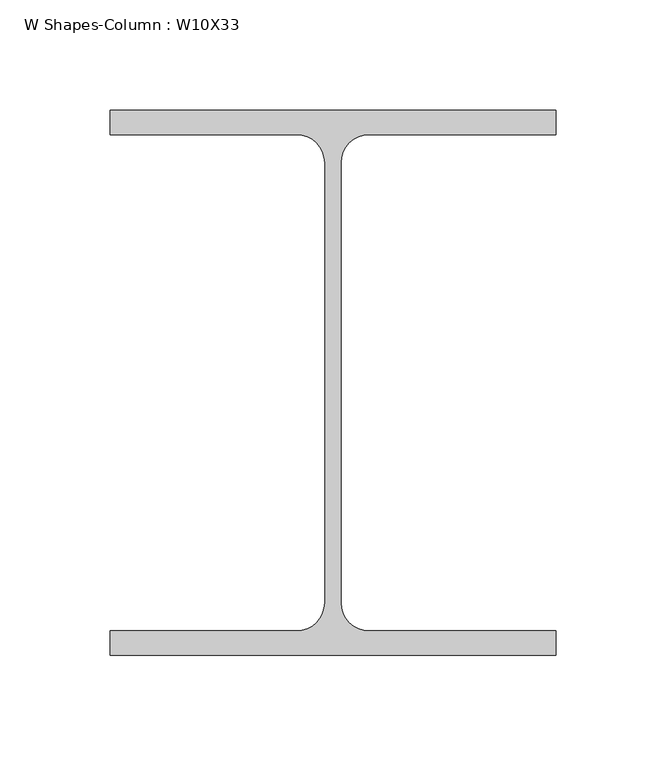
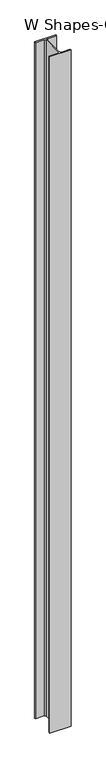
"""IFC4 building model written with IfcOpenShell, lengths in millimetres: column geometry, W Shapes-Column : W10X33."""

import ifcopenshell
import ifcopenshell.guid

model = None  # the IFC model being written
_history = None  # IfcOwnerHistory: only IFC2X3 demands one
_inside = {}  # id of a spatial element -> (the spatial element, [elements in it])
_under = {}  # id of a project, library or spatial element -> (it, [spatial elements below it])
_declared = {}  # id of a project -> (the project, [libraries it declares])
_typed = {}  # id of a type object -> (the type object, [elements of that type])
_made_of = {}  # id of a material, layer set ... -> (it, [elements and type objects made of it])


def new_model(schema):
    """Start an empty IFC model of exactly this schema.

    Asked for "IFC4X3", IfcOpenShell would pick the latest addendum, in which some entities
    have other attributes; the version numbers below select the first issue.
    IFC2X3 requires an IfcOwnerHistory on every rooted entity: one is made here for all.
    """
    global model, _history
    if schema == "IFC4X3":
        model = ifcopenshell.file(schema_version=(4, 3, 0, 0))
    else:
        model = ifcopenshell.file(schema=schema)
    _inside.clear()
    _under.clear()
    _declared.clear()
    _typed.clear()
    _made_of.clear()
    _history = None
    if model.schema == "IFC2X3":
        org = make("IfcOrganization", Name="unknown")
        user = make(
            "IfcPersonAndOrganization",
            ThePerson=make("IfcPerson", FamilyName="unknown"),
            TheOrganization=org,
        )
        app = make(
            "IfcApplication",
            ApplicationDeveloper=org,
            Version="unknown",
            ApplicationFullName="unknown",
            ApplicationIdentifier="unknown",
        )
        _history = make(
            "IfcOwnerHistory",
            OwningUser=user,
            OwningApplication=app,
            ChangeAction="ADDED",
            CreationDate=0,
        )
    return model


def make(cls, **values):
    """One entity of the class cls with the attributes given. An attribute that is None is left unset."""
    return model.create_entity(
        cls, **{name: value for name, value in values.items() if value is not None}
    )


def rooted(cls, **values):
    """An entity with a GlobalId (a new one), such as an element, a storey or a relation."""
    return make(cls, GlobalId=ifcopenshell.guid.new(), OwnerHistory=_history, **values)


def si_unit(unit_type, name, prefix=None):
    """IfcSIUnit, for example si_unit("LENGTHUNIT", "METRE", prefix="MILLI")."""
    return make("IfcSIUnit", UnitType=unit_type, Prefix=prefix, Name=name)


def assignment(units):
    """IfcUnitAssignment: the units of a project."""
    return None if units is None else make("IfcUnitAssignment", Units=units)


def point(xyz):
    """IfcCartesianPoint."""
    return None if xyz is None else make("IfcCartesianPoint", Coordinates=xyz)


def direction(xyz):
    """IfcDirection."""
    return None if xyz is None else make("IfcDirection", DirectionRatios=xyz)


def frame(location, z_axis=None, x_axis=None):
    """IfcAxis2Placement3D, a coordinate frame: its origin and axes. An axis left out is left unset."""
    return make(
        "IfcAxis2Placement3D",
        Location=point(location),
        Axis=direction(z_axis),
        RefDirection=direction(x_axis),
    )


def frame_2d(location, x_axis=None):
    """IfcAxis2Placement2D, a coordinate frame in the plane: its origin and x axis."""
    return make(
        "IfcAxis2Placement2D", Location=point(location), RefDirection=direction(x_axis)
    )


def origin():
    """The frame at (0, 0, 0) with its axes left unset."""
    return frame((0.0, 0.0, 0.0))


def place(relative_to, where):
    """IfcLocalPlacement: puts the frame where relative to a parent placement (None: the world)."""
    return make(
        "IfcLocalPlacement", PlacementRelTo=relative_to, RelativePlacement=where
    )


def context(
    kind, dimensions, precision=None, world=None, true_north=None, identifier=None
):
    """IfcGeometricRepresentationContext, for example the 3D "Model" context."""
    return make(
        "IfcGeometricRepresentationContext",
        ContextIdentifier=identifier,
        ContextType=kind,
        CoordinateSpaceDimension=dimensions,
        Precision=precision,
        WorldCoordinateSystem=world,
        TrueNorth=true_north,
    )


def project(units=None, contexts=None):
    """IfcProject with its units and contexts."""
    return rooted(
        "IfcProject",
        Name="project",
        RepresentationContexts=contexts,
        UnitsInContext=assignment(units),
    )


def spatial(cls, under=None, at=None, **own):
    """A site, building, storey or space (cls), placed at a placement, below another one or the project."""
    s = rooted(cls, ObjectPlacement=at, **own)
    if under is not None:
        _under.setdefault(under.id(), (under, []))[1].append(s)
    return s


def polyline(points):
    """IfcPolyline through the points."""
    return make("IfcPolyline", Points=[point(p) for p in points])


def circle_curve(where, radius):
    """IfcCircle in the frame where."""
    return make("IfcCircle", Position=where, Radius=radius)


def trimmed(basis, trim1, trim2, sense, master):
    """IfcTrimmedCurve: the piece of a basis curve between two trims."""
    return make(
        "IfcTrimmedCurve",
        BasisCurve=basis,
        Trim1=trim1,
        Trim2=trim2,
        SenseAgreement=sense,
        MasterRepresentation=master,
    )


def segment(curve, same_sense, transition):
    """IfcCompositeCurveSegment."""
    return make(
        "IfcCompositeCurveSegment",
        Transition=transition,
        SameSense=same_sense,
        ParentCurve=curve,
    )


def composite_curve(segments, self_intersect=None):
    """IfcCompositeCurve: segments joined end to end."""
    return make("IfcCompositeCurve", Segments=segments, SelfIntersect=self_intersect)


def outline(outer, holes=None, kind="AREA"):
    """IfcArbitraryClosedProfileDef: a profile drawn as a closed curve; with holes, ...WithVoids."""
    if holes is None:
        return make("IfcArbitraryClosedProfileDef", ProfileType=kind, OuterCurve=outer)
    return make(
        "IfcArbitraryProfileDefWithVoids",
        ProfileType=kind,
        OuterCurve=outer,
        InnerCurves=holes,
    )


def extrude(swept, where, along, depth):
    """IfcExtrudedAreaSolid: the profile swept, set in the frame where, extruded along a direction by depth."""
    return make(
        "IfcExtrudedAreaSolid",
        SweptArea=swept,
        Position=where,
        ExtrudedDirection=direction(along),
        Depth=depth,
    )


def shape(context_of_items, identifier, shape_type, items):
    """IfcShapeRepresentation: the items that make up one representation, for example the "Body"."""
    return make(
        "IfcShapeRepresentation",
        ContextOfItems=context_of_items,
        RepresentationIdentifier=identifier,
        RepresentationType=shape_type,
        Items=items,
    )


def source(mapping_origin, context_of_items, identifier, shape_type, items):
    """IfcRepresentationMap: a shape defined once, which mapped items show again and again."""
    return make(
        "IfcRepresentationMap",
        MappingOrigin=mapping_origin,
        MappedRepresentation=shape(context_of_items, identifier, shape_type, items),
    )


def transform(
    local_origin,
    x_axis=None,
    y_axis=None,
    z_axis=None,
    scale=None,
    scale2=None,
    scale3=None,
    uniform=True,
):
    """IfcCartesianTransformationOperator3D, or its non-uniform kind. x_axis, y_axis, z_axis: its Axis1, 2, 3."""
    if uniform:
        return make(
            "IfcCartesianTransformationOperator3D",
            Axis1=direction(x_axis),
            Axis2=direction(y_axis),
            LocalOrigin=point(local_origin),
            Scale=scale,
            Axis3=direction(z_axis),
        )
    return make(
        "IfcCartesianTransformationOperator3DnonUniform",
        Axis1=direction(x_axis),
        Axis2=direction(y_axis),
        LocalOrigin=point(local_origin),
        Scale=scale,
        Axis3=direction(z_axis),
        Scale2=scale2,
        Scale3=scale3,
    )


def mapped(mapping_source, mapping_target):
    """IfcMappedItem: shows the shape of a source again, moved by a transform."""
    return make(
        "IfcMappedItem", MappingSource=mapping_source, MappingTarget=mapping_target
    )


def made_of(thing, what):
    """Note that an element or type object is made of a material, layer set ...; save() writes the relation."""
    if what is not None:
        _made_of.setdefault(what.id(), (what, []))[1].append(thing)
    return thing


def element(
    cls,
    number,
    at=None,
    inside=None,
    cuts=None,
    type_object=None,
    material=None,
    context=None,
    identifier="Body",
    shape_type=None,
    held_by="IfcProductDefinitionShape",
    body=None,
    shapes=None,
    **own,
):
    """One element of the class cls, such as IfcWall. Its Tag is "e" and its number.

    at: its placement. inside: the storey or other place that contains it. cuts: it is an
    opening in that element (IfcRelVoidsElement). A single representation is given by context,
    identifier, shape_type and body (its items); several are given by shapes. held_by: the class
    of the entity that holds the representations. save() writes the other relations.
    """
    e = rooted(cls, Tag="e%d" % number, ObjectPlacement=at, **own)
    if body is not None:
        shapes = [shape(context, identifier, shape_type, body)]
    if shapes is not None:
        e.Representation = make(held_by, Representations=shapes)
    if inside is not None:
        _inside.setdefault(inside.id(), (inside, []))[1].append(e)
    if cuts is not None:
        rooted(
            "IfcRelVoidsElement", RelatingBuildingElement=cuts, RelatedOpeningElement=e
        )
    if type_object is not None:
        _typed.setdefault(type_object.id(), (type_object, []))[1].append(e)
    return made_of(e, material)


def aggregate(whole, parts):
    """IfcRelAggregates: a whole, such as a stair, and the parts it consists of."""
    return rooted("IfcRelAggregates", RelatingObject=whole, RelatedObjects=parts)


def save(model, path):
    """Write the relations noted so far, then the file.

    IfcRelAggregates (storeys below a building ...), IfcRelContainedInSpatialStructure (elements
    in a storey), IfcRelDefinesByType, IfcRelAssociatesMaterial and IfcRelDeclares: one each for
    every whole, place, type object, material and project.
    """
    for whole, parts in _under.values():
        aggregate(whole, parts)
    for where, things in _inside.values():
        rooted(
            "IfcRelContainedInSpatialStructure",
            RelatedElements=things,
            RelatingStructure=where,
        )
    for kind, things in _typed.values():
        rooted("IfcRelDefinesByType", RelatedObjects=things, RelatingType=kind)
    for what, things in _made_of.values():
        rooted("IfcRelAssociatesMaterial", RelatedObjects=things, RelatingMaterial=what)
    for by, libraries in _declared.values():
        rooted("IfcRelDeclares", RelatingContext=by, RelatedDefinitions=libraries)
    model.write(path)


def w_shapes_column_w10x33_60aa4128(model_context):
    return source(origin(), model_context, "Body", "SweptSolid", [
        extrude(outline(composite_curve([segment(polyline([(101.092, 123.571), (101.092, 112.522), (16.383, 112.522)]), True, "CONTINUOUS"), segment(trimmed(circle_curve(frame_2d((16.383, 99.822)), 12.7), [point((16.383, 112.522))], [point((3.683, 99.822))], True, "CARTESIAN"), True, "CONTINUOUS"), segment(polyline([(3.683, 99.822), (3.683, -99.822)]), True, "CONTINUOUS"), segment(trimmed(circle_curve(frame_2d((16.383, -99.822)), 12.7), [point((3.683, -99.822))], [point((16.383, -112.522))], True, "CARTESIAN"), True, "CONTINUOUS"), segment(polyline([(16.383, -112.522), (101.092, -112.522), (101.092, -123.571), (-101.092, -123.571), (-101.092, -112.522), (-16.383, -112.522)]), True, "CONTINUOUS"), segment(trimmed(circle_curve(frame_2d((-16.383, -99.822)), 12.7), [point((-16.383, -112.522))], [point((-3.683, -99.822))], True, "CARTESIAN"), True, "CONTINUOUS"), segment(polyline([(-3.683, -99.822), (-3.683, 99.822)]), True, "CONTINUOUS"), segment(trimmed(circle_curve(frame_2d((-16.383, 99.822)), 12.7), [point((-3.683, 99.822))], [point((-16.383, 112.522))], True, "CARTESIAN"), True, "CONTINUOUS"), segment(polyline([(-16.383, 112.522), (-101.092, 112.522), (-101.092, 123.571), (101.092, 123.571)]), True, "CONTINUOUS")], self_intersect=False)), frame((0.0, 0.0, -304.8), z_axis=(0.0, 0.0, 1.0), x_axis=(1.0, 0.0, 0.0)), (0.0, 0.0, 1.0), 6807.2),
    ])


if __name__ == "__main__":
    model = new_model("IFC4")
    model_context = context("Model", 3, world=origin())
    ifc_project = project(units=[si_unit("LENGTHUNIT", "METRE", prefix="MILLI")], contexts=[model_context])
    site = spatial("IfcSite", under=ifc_project)
    building = spatial("IfcBuilding", under=site)
    placement = place(None, origin())
    w_shapes_column_w10x33_shape = w_shapes_column_w10x33_60aa4128(model_context)
    element("IfcColumn", 1, ObjectType="W Shapes-Column : W10X33", at=placement, inside=building, context=model_context, shape_type="MappedRepresentation", body=[
        mapped(w_shapes_column_w10x33_shape, transform((0.0, 0.0, 0.0), x_axis=(1.0, 0.0, 0.0), y_axis=(0.0, 1.0, 0.0), z_axis=(0.0, 0.0, 1.0))),
    ])
    save(model, "model.ifc")
